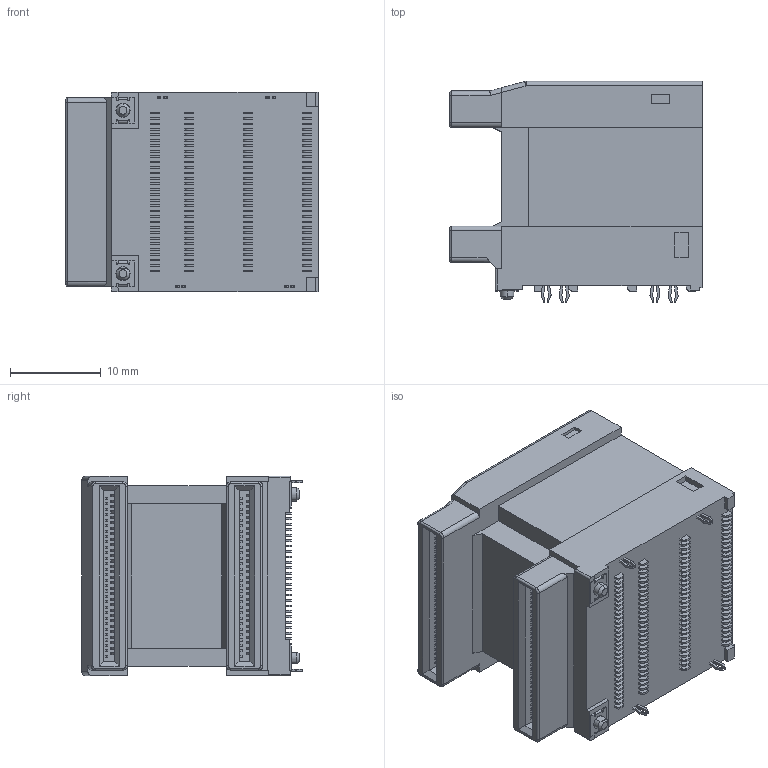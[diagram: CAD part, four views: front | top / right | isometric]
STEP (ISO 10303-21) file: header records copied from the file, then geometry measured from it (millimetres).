
FILE_DESCRIPTION((''),'2;1');
FILE_NAME('O112_2X1_CONN_PEP120-7520-00X-1','2026-06-22T10:13:28',('39002408'),(''),'CREO PARAMETRIC BY PTC INC, 2019471','CREO PARAMETRIC BY PTC INC, 2019471','');
FILE_SCHEMA(('CONFIG_CONTROL_DESIGN'));
Products named in the file (1): O112_2X1_CONN_PEP120-7520-00X-1
Bounding box: 27.8 x 24.33 x 22 mm (x, y, z)
Volume: 10889.5 mm3; surface area: 5087.3 mm2
Topology: 1 solids, 143 shells, 3901 faces, 10017 edges, 6664 vertices
Faces by surface type: plane 3112, cylinder 775, torus 8, cone 4, sphere 2
Entity records: 117572 total; most frequent: CARTESIAN_POINT 20644, ORIENTED_EDGE 20030, DIRECTION 19358, EDGE_CURVE 10015, VECTOR 8450, LINE 8450, VERTEX_POINT 6664, AXIS2_PLACEMENT_3D 5454
